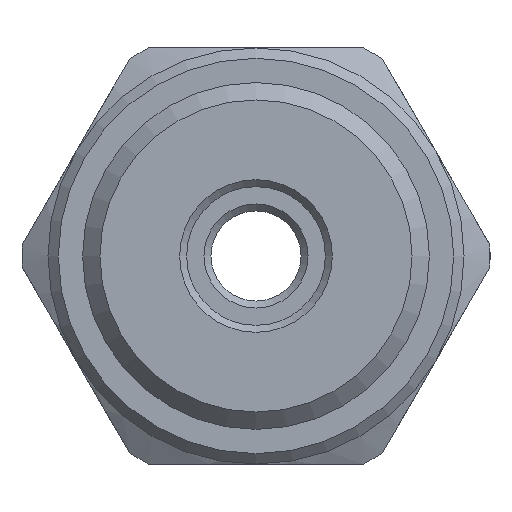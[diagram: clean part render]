
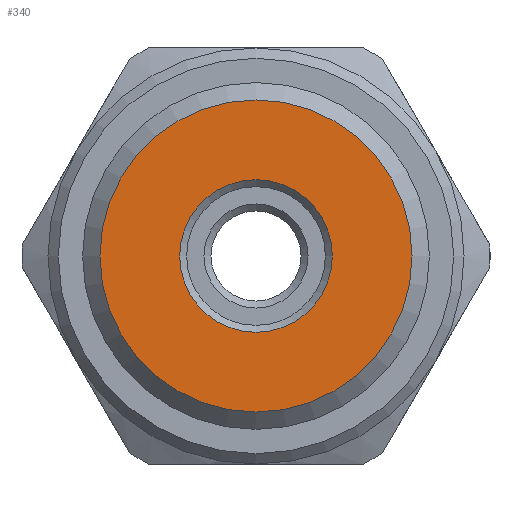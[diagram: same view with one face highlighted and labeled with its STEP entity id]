
A CAD part, left-side view. The second image highlights one B-rep face of the part: STEP entity #340.
In plain terms, the highlighted planar face has unit normal (-1, 0, 0).
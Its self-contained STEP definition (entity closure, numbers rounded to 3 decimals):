
#340=ADVANCED_FACE('',(#806,#807),#808,.F.);
#806=FACE_BOUND('',#1354,.T.);
#807=FACE_OUTER_BOUND('',#1355,.T.);
#808=PLANE('',#1356);
#1354=EDGE_LOOP('',(#2668));
#1355=EDGE_LOOP('',(#2669));
#1356=AXIS2_PLACEMENT_3D('',#2670,#2671,#2672);
#2668=ORIENTED_EDGE('',*,*,#2962,.T.);
#2669=ORIENTED_EDGE('',*,*,#2966,.T.);
#2670=CARTESIAN_POINT('',(-9.0,0.0,0.0));
#2671=DIRECTION('',(1.0,0.0,0.0));
#2672=DIRECTION('',(0.0,1.0,0.0));
#2962=EDGE_CURVE('',#3101,#3101,#3102,.T.);
#2966=EDGE_CURVE('',#3106,#3106,#3107,.T.);
#3101=VERTEX_POINT('',#3356);
#3102=CIRCLE('',#3357,2.2);
#3106=VERTEX_POINT('',#3361);
#3107=CIRCLE('',#3362,4.5);
#3356=CARTESIAN_POINT('',(-9.0,0.,-2.2));
#3357=AXIS2_PLACEMENT_3D('',#3465,#3466,#3467);
#3361=CARTESIAN_POINT('',(-9.0,0.,-4.5));
#3362=AXIS2_PLACEMENT_3D('',#3468,#3469,#3470);
#3465=CARTESIAN_POINT('',(-9.0,0.,0.));
#3466=DIRECTION('',(1.0,0.0,0.0));
#3467=DIRECTION('',(0.0,0.0,-1.0));
#3468=CARTESIAN_POINT('',(-9.0,0.,0.));
#3469=DIRECTION('',(-1.0,0.0,0.0));
#3470=DIRECTION('',(0.0,0.0,-1.0));
